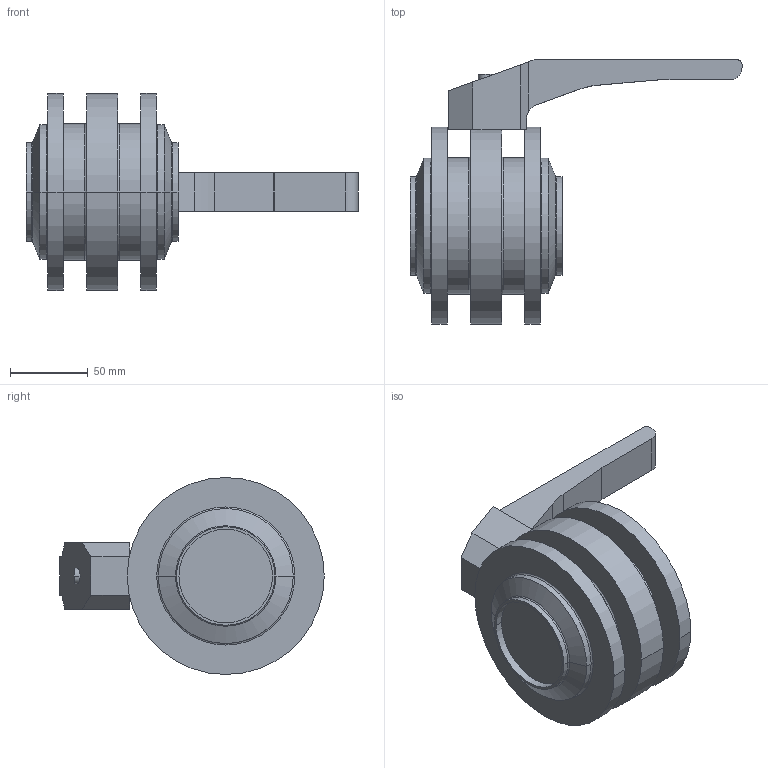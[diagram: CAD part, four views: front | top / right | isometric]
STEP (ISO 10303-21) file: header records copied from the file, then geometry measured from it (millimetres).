
FILE_DESCRIPTION(('OneSpaceDesigner STEP Export'),'2;1');
FILE_NAME('SVS1F-2.5zoll-H-12S.stp','2007-04-23T14:19:47',(''),(''),'OneSpace Designer STEP processor for AP214 (Solid Model)','OneSpace Modeling 15.00 06-Feb-2007 (C) CoCreate Software GmbH','');
FILE_SCHEMA(('AUTOMOTIVE_DESIGN { 1 0 10303 214 1 1 1 1 }'));
Length unit declared in the file: millimetre
Products named in the file (3): SVS1F-2.5zoll-H-12S; Handhebel-SV-40-100; SVS1F-2.5zoll-H-12S-vereint
Assembly tree (2 placements, depth 2):
  SVS1F-2.5zoll-H-12S-vereint
    Handhebel-SV-40-100
    SVS1F-2.5zoll-H-12S
Bounding box: 214 x 170.5 x 127 mm (x, y, z)
Volume: 926989.4 mm3; surface area: 102546 mm2
Topology: 2 solids, 2 shells, 76 faces, 167 edges, 104 vertices
Faces by surface type: cylinder 31, plane 29, torus 12, cone 4
Entity records: 2308 total; most frequent: CARTESIAN_POINT 696, ORIENTED_EDGE 334, DIRECTION 303, EDGE_CURVE 167, AXIS2_PLACEMENT_3D 113, VERTEX_POINT 104, EDGE_LOOP 85, VECTOR 77
